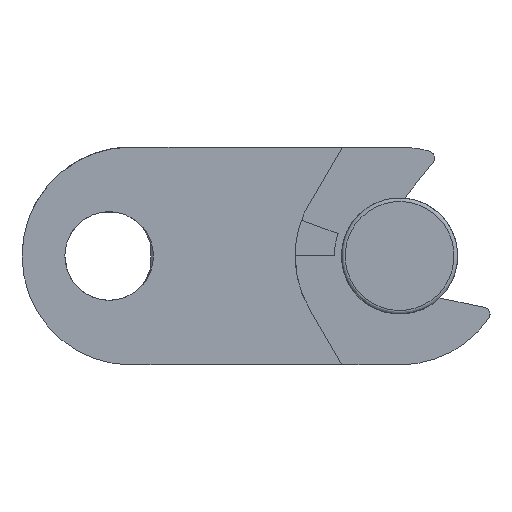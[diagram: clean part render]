
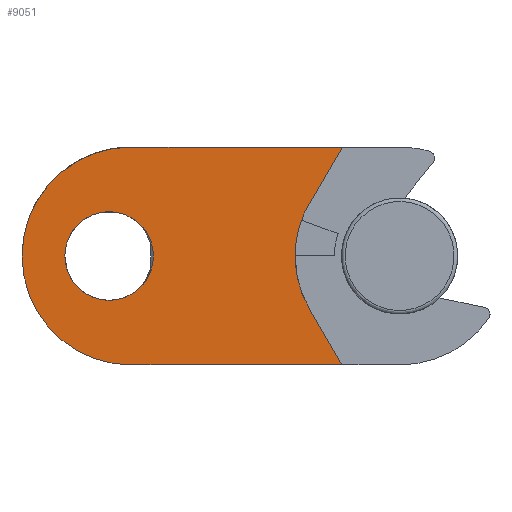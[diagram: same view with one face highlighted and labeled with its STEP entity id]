
A CAD part, left-side view. The second image highlights one B-rep face of the part: STEP entity #9051.
In plain terms, the highlighted planar face has unit normal (-1, 0, 0) as drawn and (0, 0, 1) by its records, which use the part's own axes.
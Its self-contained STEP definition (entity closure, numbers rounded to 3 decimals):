
#1319=CARTESIAN_POINT('',(135.261,171.461,47.0));
#1320=VERTEX_POINT('',#1319);
#1327=CARTESIAN_POINT('',(120.704,171.461,47.0));
#1328=VERTEX_POINT('',#1327);
#1329=CARTESIAN_POINT('',(135.261,171.461,47.0));
#1330=DIRECTION('',(-1.0,0.0,0.0));
#1331=VECTOR('',#1330,14.558);
#1332=LINE('',#1329,#1331);
#1333=EDGE_CURVE('',#1320,#1328,#1332,.T.);
#8576=CARTESIAN_POINT('',(135.261,186.461,47.0));
#8577=VERTEX_POINT('',#8576);
#8584=CARTESIAN_POINT('',(135.261,178.961,47.0));
#8585=DIRECTION('',(0.0,0.0,-1.0));
#8586=DIRECTION('',(0.,1.0,0.0));
#8587=AXIS2_PLACEMENT_3D('',#8584,#8585,#8586);
#8588=CIRCLE('',#8587,7.5);
#8589=EDGE_CURVE('',#8577,#1320,#8588,.T.);
#8867=CARTESIAN_POINT('',(123.324,176.,47.0));
#8868=VERTEX_POINT('',#8867);
#8869=CARTESIAN_POINT('',(123.324,176.,47.0));
#8870=DIRECTION('',(-0.5,-0.866,0.0));
#8871=VECTOR('',#8870,5.241);
#8872=LINE('',#8869,#8871);
#8873=EDGE_CURVE('',#8868,#1328,#8872,.T.);
#8892=CARTESIAN_POINT('',(122.996,182.561,47.0));
#8893=VERTEX_POINT('',#8892);
#8894=CARTESIAN_POINT('',(116.761,178.961,47.0));
#8895=DIRECTION('',(0.0,0.0,-1.0));
#8896=DIRECTION('',(0.812,-0.584,0.0));
#8897=AXIS2_PLACEMENT_3D('',#8894,#8895,#8896);
#8898=CIRCLE('',#8897,7.2);
#8899=EDGE_CURVE('',#8893,#8868,#8898,.T.);
#8920=CARTESIAN_POINT('',(120.745,186.461,47.0));
#8921=VERTEX_POINT('',#8920);
#8922=CARTESIAN_POINT('',(120.745,186.461,47.0));
#8923=DIRECTION('',(0.5,-0.866,0.0));
#8924=VECTOR('',#8923,4.503);
#8925=LINE('',#8922,#8924);
#8926=EDGE_CURVE('',#8921,#8893,#8925,.T.);
#9022=CARTESIAN_POINT('',(125.951,179.097,47.0));
#9023=DIRECTION('',(0.0,0.0,1.0));
#9024=DIRECTION('',(1.0,0.0,0.0));
#9025=AXIS2_PLACEMENT_3D('',#9022,#9023,#9024);
#9026=PLANE('',#9025);
#9027=CARTESIAN_POINT('',(120.745,186.461,47.0));
#9028=DIRECTION('',(1.0,0.0,0.0));
#9029=VECTOR('',#9028,14.516);
#9030=LINE('',#9027,#9029);
#9031=EDGE_CURVE('',#8921,#8577,#9030,.T.);
#9032=ORIENTED_EDGE('',*,*,#9031,.F.);
#9033=ORIENTED_EDGE('',*,*,#8926,.T.);
#9034=ORIENTED_EDGE('',*,*,#8899,.T.);
#9035=ORIENTED_EDGE('',*,*,#8873,.T.);
#9036=ORIENTED_EDGE('',*,*,#1333,.F.);
#9037=ORIENTED_EDGE('',*,*,#8589,.F.);
#9038=EDGE_LOOP('',(#9032,#9033,#9034,#9035,#9036,#9037));
#9039=FACE_OUTER_BOUND('',#9038,.T.);
#9040=CARTESIAN_POINT('',(139.811,178.961,47.0));
#9041=VERTEX_POINT('',#9040);
#9042=CARTESIAN_POINT('',(136.761,178.961,47.0));
#9043=DIRECTION('',(0.0,0.0,-1.0));
#9044=DIRECTION('',(-1.0,0.0,0.0));
#9045=AXIS2_PLACEMENT_3D('',#9042,#9043,#9044);
#9046=CIRCLE('',#9045,3.05);
#9047=EDGE_CURVE('',#9041,#9041,#9046,.T.);
#9048=ORIENTED_EDGE('',*,*,#9047,.T.);
#9049=EDGE_LOOP('',(#9048));
#9050=FACE_BOUND('',#9049,.T.);
#9051=ADVANCED_FACE('',(#9039,#9050),#9026,.T.);
